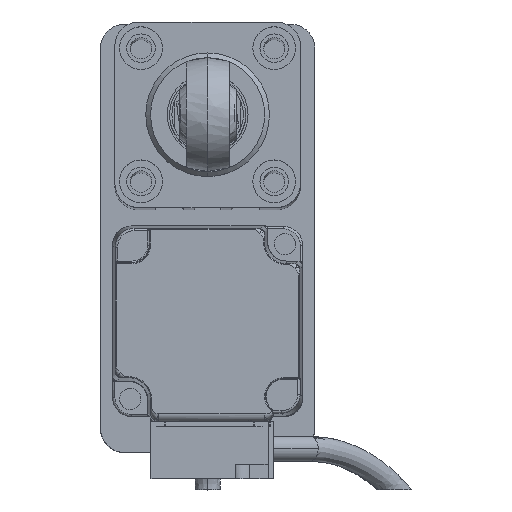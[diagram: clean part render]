
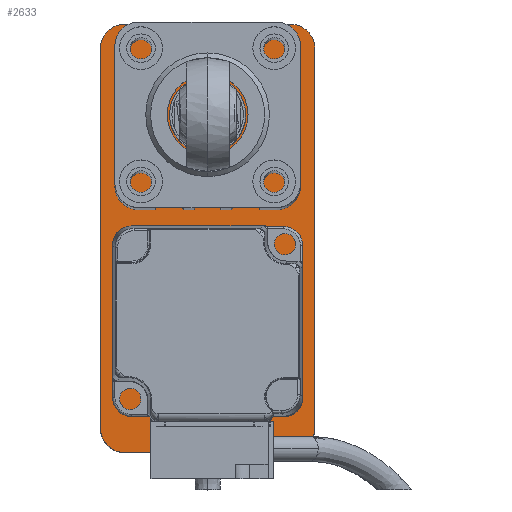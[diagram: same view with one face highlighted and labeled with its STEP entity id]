
A CAD part, top view. The second image highlights one B-rep face of the part: STEP entity #2633.
In plain terms, the highlighted planar face has unit normal (0, 0, 1).
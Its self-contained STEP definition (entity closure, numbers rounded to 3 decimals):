
#120 = CIRCLE ( 'NONE', #5034, 5. ) ;
#121 = CIRCLE ( 'NONE', #25386, 5. ) ;
#150 = CARTESIAN_POINT ( 'NONE',  ( 22.5, -40., 10. ) ) ;
#196 = CARTESIAN_POINT ( 'NONE',  ( 22.5, 40., 10. ) ) ;
#679 = CARTESIAN_POINT ( 'NONE',  ( -17.5, 40., 10. ) ) ;
#898 = DIRECTION ( 'NONE',  ( 0., -1., 0. ) ) ;
#994 = DIRECTION ( 'NONE',  ( 1., 0., 0. ) ) ;
#2039 = ORIENTED_EDGE ( 'NONE', *, *, #11978, .T. ) ;
#2224 = CARTESIAN_POINT ( 'NONE',  ( 22.5, -45., 10. ) ) ;
#2310 = ORIENTED_EDGE ( 'NONE', *, *, #17889, .T. ) ;
#2633 = ADVANCED_FACE ( 'NONE', ( #30852 ), #6857, .T. ) ;
#2807 = CARTESIAN_POINT ( 'NONE',  ( -17.5, 45., 10. ) ) ;
#2971 = EDGE_CURVE ( 'NONE', #10218, #15388, #13102, .T. ) ;
#2996 = LINE ( 'NONE', #2224, #17525 ) ;
#3723 = DIRECTION ( 'NONE',  ( 0., 0., 1. ) ) ;
#4626 = DIRECTION ( 'NONE',  ( 1., 0., 0. ) ) ;
#5034 = AXIS2_PLACEMENT_3D ( 'NONE', #679, #31078, #25678 ) ;
#5822 = ORIENTED_EDGE ( 'NONE', *, *, #13312, .T. ) ;
#5848 = ORIENTED_EDGE ( 'NONE', *, *, #22988, .T. ) ;
#6186 = CARTESIAN_POINT ( 'NONE',  ( 22.5, -45., 10. ) ) ;
#6443 = EDGE_LOOP ( 'NONE', ( #30488, #15757, #5822, #2039, #5848, #7526, #2310, #19650 ) ) ;
#6857 = PLANE ( 'NONE',  #9084 ) ;
#6876 = VECTOR ( 'NONE', #898, 1000. ) ;
#7277 = VERTEX_POINT ( 'NONE', #30136 ) ;
#7526 = ORIENTED_EDGE ( 'NONE', *, *, #2971, .T. ) ;
#8590 = CARTESIAN_POINT ( 'NONE',  ( -17.5, -40., 10. ) ) ;
#9084 = AXIS2_PLACEMENT_3D ( 'NONE', #32078, #21786, #4626 ) ;
#10218 = VERTEX_POINT ( 'NONE', #19394 ) ;
#11104 = LINE ( 'NONE', #22460, #25265 ) ;
#11448 = VERTEX_POINT ( 'NONE', #27959 ) ;
#11464 = AXIS2_PLACEMENT_3D ( 'NONE', #19511, #12176, #11739 ) ;
#11739 = DIRECTION ( 'NONE',  ( 1., 0., 0. ) ) ;
#11978 = EDGE_CURVE ( 'NONE', #14793, #11448, #120, .T. ) ;
#12176 = DIRECTION ( 'NONE',  ( 0., 0., 1. ) ) ;
#12231 = DIRECTION ( 'NONE',  ( 0., 0., 1. ) ) ;
#12800 = CARTESIAN_POINT ( 'NONE',  ( -17.5, -45., 10. ) ) ;
#13102 = CIRCLE ( 'NONE', #16843, 5. ) ;
#13312 = EDGE_CURVE ( 'NONE', #7277, #14793, #11104, .T. ) ;
#14793 = VERTEX_POINT ( 'NONE', #2807 ) ;
#15388 = VERTEX_POINT ( 'NONE', #12800 ) ;
#15757 = ORIENTED_EDGE ( 'NONE', *, *, #31692, .T. ) ;
#16843 = AXIS2_PLACEMENT_3D ( 'NONE', #8590, #3723, #994 ) ;
#17050 = DIRECTION ( 'NONE',  ( 0., 1., 0. ) ) ;
#17525 = VECTOR ( 'NONE', #17050, 1000. ) ;
#17889 = EDGE_CURVE ( 'NONE', #15388, #20399, #26163, .T. ) ;
#18210 = EDGE_CURVE ( 'NONE', #20399, #30157, #121, .T. ) ;
#19394 = CARTESIAN_POINT ( 'NONE',  ( -22.5, -40., 10. ) ) ;
#19511 = CARTESIAN_POINT ( 'NONE',  ( 17.5, 40., 10. ) ) ;
#19650 = ORIENTED_EDGE ( 'NONE', *, *, #18210, .T. ) ;
#20399 = VERTEX_POINT ( 'NONE', #29066 ) ;
#20817 = VERTEX_POINT ( 'NONE', #196 ) ;
#21786 = DIRECTION ( 'NONE',  ( 0., 0., 1. ) ) ;
#22460 = CARTESIAN_POINT ( 'NONE',  ( 22.5, 45., 10. ) ) ;
#22988 = EDGE_CURVE ( 'NONE', #11448, #10218, #26941, .T. ) ;
#23466 = CARTESIAN_POINT ( 'NONE',  ( -22.5, -45., 10. ) ) ;
#23489 = DIRECTION ( 'NONE',  ( 1., 0., 0. ) ) ;
#24651 = CARTESIAN_POINT ( 'NONE',  ( 17.5, -40., 10. ) ) ;
#25265 = VECTOR ( 'NONE', #29746, 1000. ) ;
#25386 = AXIS2_PLACEMENT_3D ( 'NONE', #24651, #12231, #29818 ) ;
#25678 = DIRECTION ( 'NONE',  ( 1., 0., 0. ) ) ;
#26163 = LINE ( 'NONE', #6186, #30893 ) ;
#26941 = LINE ( 'NONE', #23466, #6876 ) ;
#27959 = CARTESIAN_POINT ( 'NONE',  ( -22.5, 40., 10. ) ) ;
#28151 = CIRCLE ( 'NONE', #11464, 5. ) ;
#29066 = CARTESIAN_POINT ( 'NONE',  ( 17.5, -45., 10. ) ) ;
#29746 = DIRECTION ( 'NONE',  ( -1., 0., 0. ) ) ;
#29818 = DIRECTION ( 'NONE',  ( 1., 0., 0. ) ) ;
#30136 = CARTESIAN_POINT ( 'NONE',  ( 17.5, 45., 10. ) ) ;
#30157 = VERTEX_POINT ( 'NONE', #150 ) ;
#30488 = ORIENTED_EDGE ( 'NONE', *, *, #30920, .T. ) ;
#30852 = FACE_OUTER_BOUND ( 'NONE', #6443, .T. ) ;
#30893 = VECTOR ( 'NONE', #23489, 1000. ) ;
#30920 = EDGE_CURVE ( 'NONE', #30157, #20817, #2996, .T. ) ;
#31078 = DIRECTION ( 'NONE',  ( 0., 0., 1. ) ) ;
#31692 = EDGE_CURVE ( 'NONE', #20817, #7277, #28151, .T. ) ;
#32078 = CARTESIAN_POINT ( 'NONE',  ( 0., 0., 10. ) ) ;
